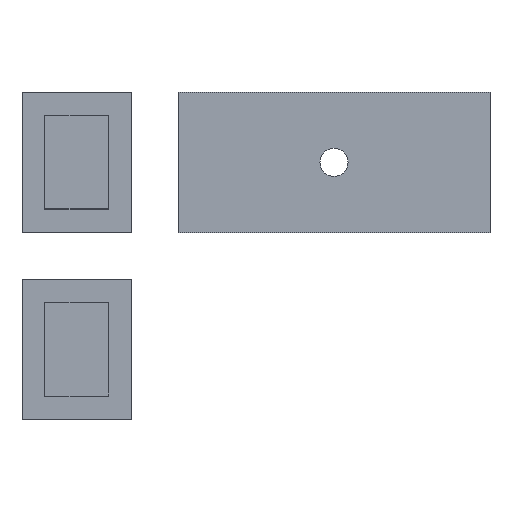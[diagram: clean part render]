
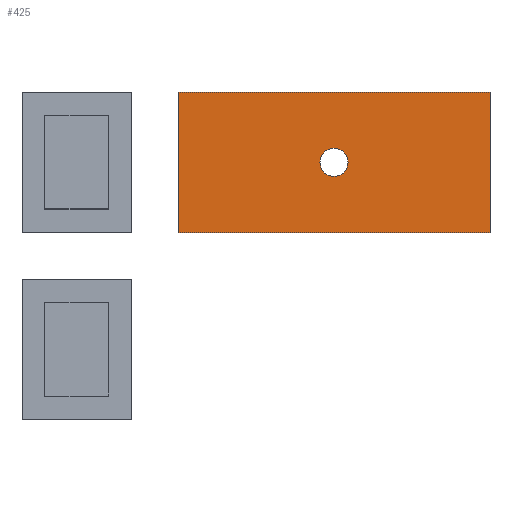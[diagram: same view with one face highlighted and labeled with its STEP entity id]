
A CAD part, top view. The second image highlights one B-rep face of the part: STEP entity #425.
In plain terms, the highlighted planar face has unit normal (0, 0, 1).
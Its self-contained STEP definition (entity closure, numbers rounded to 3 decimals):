
#361 = VERTEX_POINT('',#362);
#362 = CARTESIAN_POINT('',(20.,24.,3.2));
#377 = VERTEX_POINT('',#378);
#378 = CARTESIAN_POINT('',(20.,42.,3.2));
#384 = EDGE_CURVE('',#361,#377,#385,.T.);
#385 = LINE('',#386,#387);
#386 = CARTESIAN_POINT('',(20.,24.,3.2));
#387 = VECTOR('',#388,1.);
#388 = DIRECTION('',(-0.,1.,0.));
#407 = EDGE_CURVE('',#361,#408,#410,.T.);
#408 = VERTEX_POINT('',#409);
#409 = CARTESIAN_POINT('',(60.,24.,3.2));
#410 = LINE('',#411,#412);
#411 = CARTESIAN_POINT('',(20.,24.,3.2));
#412 = VECTOR('',#413,1.);
#413 = DIRECTION('',(1.,0.,-0.));
#425 = ADVANCED_FACE('',(#426,#444),#455,.T.);
#426 = FACE_BOUND('',#427,.T.);
#427 = EDGE_LOOP('',(#428,#429,#430,#438));
#428 = ORIENTED_EDGE('',*,*,#384,.F.);
#429 = ORIENTED_EDGE('',*,*,#407,.T.);
#430 = ORIENTED_EDGE('',*,*,#431,.T.);
#431 = EDGE_CURVE('',#408,#432,#434,.T.);
#432 = VERTEX_POINT('',#433);
#433 = CARTESIAN_POINT('',(60.,42.,3.2));
#434 = LINE('',#435,#436);
#435 = CARTESIAN_POINT('',(60.,24.,3.2));
#436 = VECTOR('',#437,1.);
#437 = DIRECTION('',(-0.,1.,0.));
#438 = ORIENTED_EDGE('',*,*,#439,.F.);
#439 = EDGE_CURVE('',#377,#432,#440,.T.);
#440 = LINE('',#441,#442);
#441 = CARTESIAN_POINT('',(20.,42.,3.2));
#442 = VECTOR('',#443,1.);
#443 = DIRECTION('',(1.,0.,-0.));
#444 = FACE_BOUND('',#445,.T.);
#445 = EDGE_LOOP('',(#446));
#446 = ORIENTED_EDGE('',*,*,#447,.F.);
#447 = EDGE_CURVE('',#448,#448,#450,.T.);
#448 = VERTEX_POINT('',#449);
#449 = CARTESIAN_POINT('',(41.8,33.,3.2));
#450 = CIRCLE('',#451,1.8);
#451 = AXIS2_PLACEMENT_3D('',#452,#453,#454);
#452 = CARTESIAN_POINT('',(40.,33.,3.2));
#453 = DIRECTION('',(0.,0.,1.));
#454 = DIRECTION('',(1.,0.,-0.));
#455 = PLANE('',#456);
#456 = AXIS2_PLACEMENT_3D('',#457,#458,#459);
#457 = CARTESIAN_POINT('',(20.,24.,3.2));
#458 = DIRECTION('',(0.,0.,1.));
#459 = DIRECTION('',(1.,0.,-0.));
